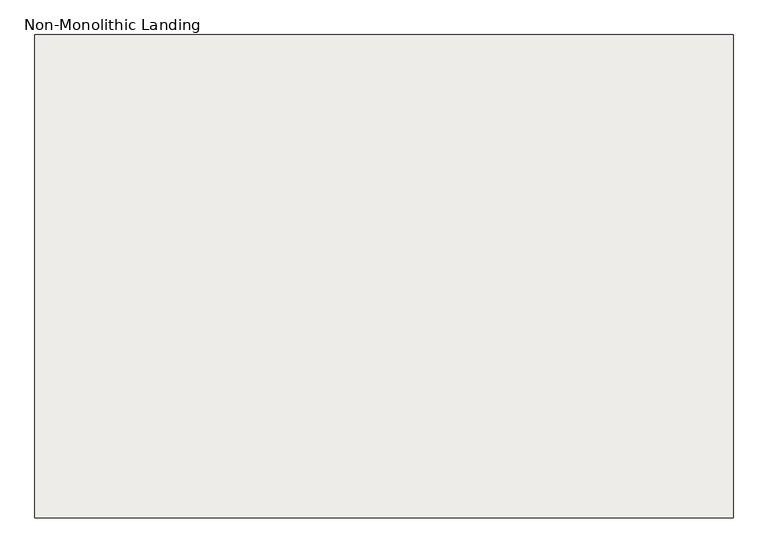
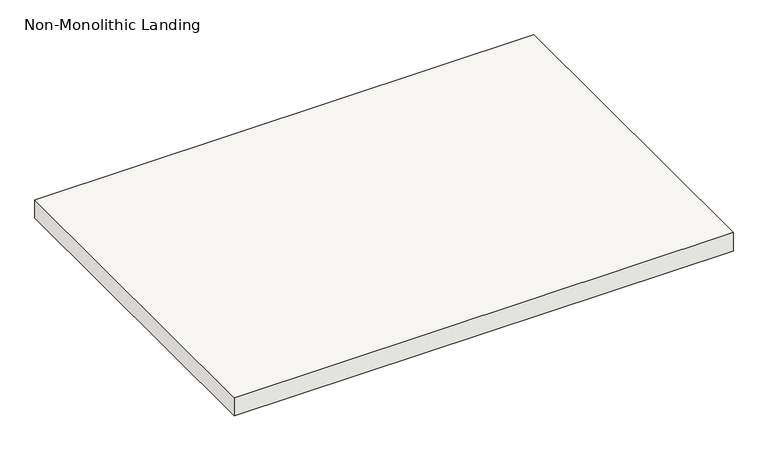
"""IFC4 building model written with IfcOpenShell, lengths in millimetres: slab geometry, Non-Monolithic Landing."""

from ifc_helpers import new_model, si_unit, frame, origin, place, context, project, spatial, polyline, outline, extrude, source, transform, mapped, element, save


def non_monolithic_landing_5bc720da(model_context):
    return source(origin(), model_context, "Body", "SweptSolid", [
        extrude(outline(polyline([(1263.1160021, 22299.7361774), (2583.9160021, 22299.7361774), (2583.9160021, 21385.3361774), (1263.1160021, 21385.3361774), (1263.1160021, 22299.7361774)])), frame((0.0, 0.0, 2126.3428571), z_axis=(0.0, 0.0, 1.0), x_axis=(1.0, 0.0, 0.0)), (0.0, 0.0, 1.0), 50.8),
    ])


if __name__ == "__main__":
    model = new_model("IFC4")
    model_context = context("Model", 3, world=origin())
    ifc_project = project(units=[si_unit("LENGTHUNIT", "METRE", prefix="MILLI")], contexts=[model_context])
    site = spatial("IfcSite", under=ifc_project)
    building = spatial("IfcBuilding", under=site)
    placement = place(None, origin())
    non_monolithic_landing_shape = non_monolithic_landing_5bc720da(model_context)
    element("IfcSlab", 1, ObjectType="Non-Monolithic Landing", at=placement, inside=building, context=model_context, shape_type="MappedRepresentation", body=[
        mapped(non_monolithic_landing_shape, transform((0.0, 0.0, 0.0), x_axis=(1.0, 0.0, 0.0), y_axis=(0.0, 1.0, 0.0), z_axis=(0.0, 0.0, 1.0))),
    ])
    save(model, "model.ifc")
